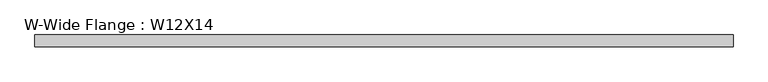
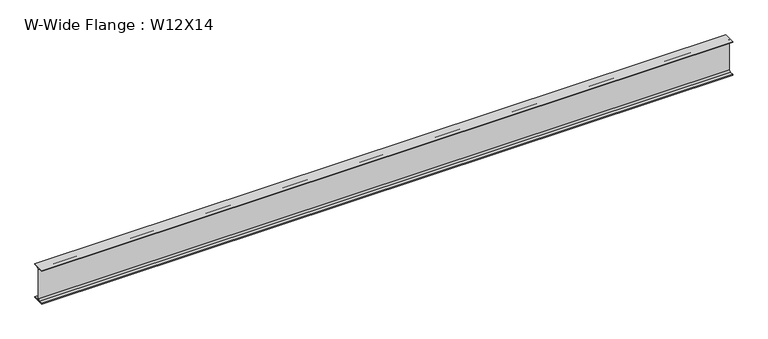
"""IFC4 building model written with IfcOpenShell, lengths in millimetres: beam geometry, W-Wide Flange : W12X14."""

from ifc_helpers import new_model, si_unit, point, frame, frame_2d, origin, place, context, project, spatial, polyline, circle_curve, trimmed, segment, composite_curve, outline, extrude, source, transform, mapped, element, save


def w_wide_flange_w12x14_f0c11bf3(model_context):
    return source(origin(), model_context, "Body", "SweptSolid", [
        extrude(outline(composite_curve([segment(polyline([(50.419, -145.415), (50.419, -151.13), (-50.419, -151.13), (-50.419, -145.415), (-15.875, -145.415)]), True, "CONTINUOUS"), segment(trimmed(circle_curve(frame_2d((-15.875, -132.08)), 13.335), [point((-15.875, -145.415))], [point((-2.54, -132.08))], True, "CARTESIAN"), True, "CONTINUOUS"), segment(polyline([(-2.54, -132.08), (-2.54, 132.08)]), True, "CONTINUOUS"), segment(trimmed(circle_curve(frame_2d((-15.875, 132.08)), 13.335), [point((-2.54, 132.08))], [point((-15.875, 145.415))], True, "CARTESIAN"), True, "CONTINUOUS"), segment(polyline([(-15.875, 145.415), (-50.419, 145.415), (-50.419, 151.13), (50.419, 151.13), (50.419, 145.415), (15.875, 145.415)]), True, "CONTINUOUS"), segment(trimmed(circle_curve(frame_2d((15.875, 132.08)), 13.335), [point((15.875, 145.415))], [point((2.54, 132.08))], True, "CARTESIAN"), True, "CONTINUOUS"), segment(polyline([(2.54, 132.08), (2.54, -132.08)]), True, "CONTINUOUS"), segment(trimmed(circle_curve(frame_2d((15.875, -132.08)), 13.335), [point((2.54, -132.08))], [point((15.875, -145.415))], True, "CARTESIAN"), True, "CONTINUOUS"), segment(polyline([(15.875, -145.415), (50.419, -145.415)]), True, "CONTINUOUS")], self_intersect=False)), frame((-2958.846, 0.0, 0.0), z_axis=(1.0, 0.0, 0.0), x_axis=(0.0, 1.0, 0.0)), (0.0, 0.0, 1.0), 5917.692),
    ])


if __name__ == "__main__":
    model = new_model("IFC4")
    model_context = context("Model", 3, world=origin())
    ifc_project = project(units=[si_unit("LENGTHUNIT", "METRE", prefix="MILLI")], contexts=[model_context])
    site = spatial("IfcSite", under=ifc_project)
    building = spatial("IfcBuilding", under=site)
    placement = place(None, origin())
    w_wide_flange_w12x14_shape = w_wide_flange_w12x14_f0c11bf3(model_context)
    element("IfcBeam", 1, ObjectType="W-Wide Flange : W12X14", at=placement, inside=building, context=model_context, shape_type="MappedRepresentation", body=[
        mapped(w_wide_flange_w12x14_shape, transform((0.0, 0.0, 0.0), x_axis=(1.0, 0.0, 0.0), y_axis=(0.0, 1.0, 0.0), z_axis=(0.0, 0.0, 1.0))),
    ])
    save(model, "model.ifc")
